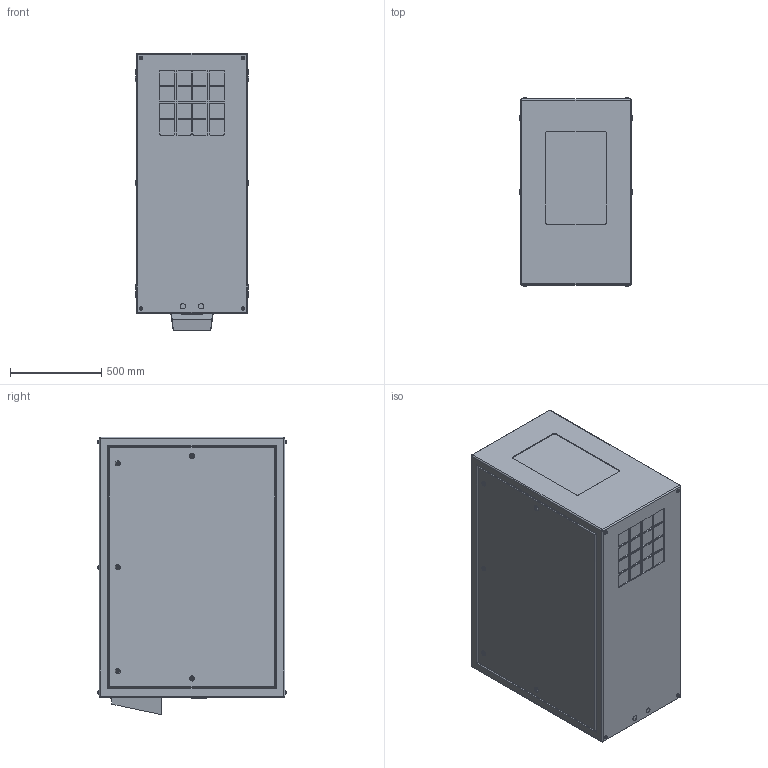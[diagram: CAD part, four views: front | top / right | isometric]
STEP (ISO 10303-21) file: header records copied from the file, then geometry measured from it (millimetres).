
FILE_DESCRIPTION (( 'STEP AP214' ), '1' );
FILE_NAME ('Cyclone 55.322.P R10.STEP', '2022-09-08T22:06:39', ( '' ), ( '' ), 'SwSTEP 2.0', 'SolidWorks 2020', '' );
FILE_SCHEMA (( 'AUTOMOTIVE_DESIGN' ));
Length unit declared in the file: inch
Products named in the file (1): Cyclone 55.322.P R10
Bounding box: 622.3 x 1030.6 x 1517.65 mm (x, y, z)
Volume: 291222246.5 mm3; surface area: 10947617.2 mm2
Topology: 1 solids, 8 shells, 582 faces, 1356 edges, 868 vertices
Faces by surface type: plane 278, cylinder 244, torus 52, sphere 8
Entity records: 21637 total; most frequent: CARTESIAN_POINT 3375, DIRECTION 2958, ORIENTED_EDGE 2696, EDGE_CURVE 1348, AXIS2_PLACEMENT_3D 1123, VERTEX_POINT 868, LINE 712, VECTOR 712
